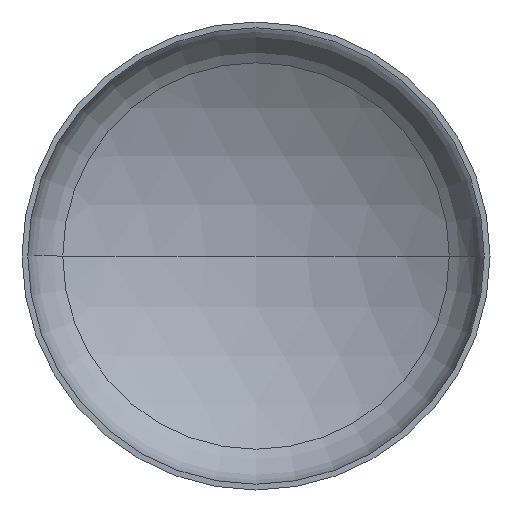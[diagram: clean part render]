
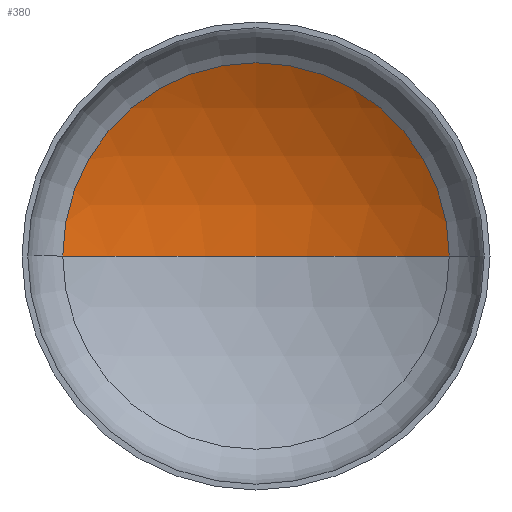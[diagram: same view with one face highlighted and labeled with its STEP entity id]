
A CAD part, front view. The second image highlights one B-rep face of the part: STEP entity #380.
In plain terms, the highlighted spherical face has radius 1760 mm.
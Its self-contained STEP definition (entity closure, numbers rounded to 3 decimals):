
#2 = AXIS2_PLACEMENT_3D ( 'NONE', #150, #242, #395 ) ;
#19 = EDGE_LOOP ( 'NONE', ( #40, #69, #143 ) ) ;
#26 = AXIS2_PLACEMENT_3D ( 'NONE', #209, #406, #348 ) ;
#28 = AXIS2_PLACEMENT_3D ( 'NONE', #173, #98, #296 ) ;
#37 = AXIS2_PLACEMENT_3D ( 'NONE', #409, #366, #231 ) ;
#40 = ORIENTED_EDGE ( 'NONE', *, *, #355, .F. ) ;
#69 = ORIENTED_EDGE ( 'NONE', *, *, #353, .T. ) ;
#76 = VERTEX_POINT ( 'NONE', #270 ) ;
#92 = VERTEX_POINT ( 'NONE', #235 ) ;
#98 = DIRECTION ( 'NONE',  ( 0., 0., -1. ) ) ;
#111 = VERTEX_POINT ( 'NONE', #227 ) ;
#143 = ORIENTED_EDGE ( 'NONE', *, *, #341, .T. ) ;
#150 = CARTESIAN_POINT ( 'NONE',  ( 0., -1131.187, 0. ) ) ;
#173 = CARTESIAN_POINT ( 'NONE',  ( 0., -1131.187, 0. ) ) ;
#194 = CIRCLE ( 'NONE', #37, 908.507 ) ;
#203 = FACE_OUTER_BOUND ( 'NONE', #19, .T. ) ;
#209 = CARTESIAN_POINT ( 'NONE',  ( 0., -1131.187, 0. ) ) ;
#227 = CARTESIAN_POINT ( 'NONE',  ( 0., 628.813, 0. ) ) ;
#231 = DIRECTION ( 'NONE',  ( 1., 0., 0. ) ) ;
#235 = CARTESIAN_POINT ( 'NONE',  ( 908.507, 376.2, 0. ) ) ;
#242 = DIRECTION ( 'NONE',  ( 0., 0., -1. ) ) ;
#247 = CIRCLE ( 'NONE', #26, 1760. ) ;
#261 = CIRCLE ( 'NONE', #28, 1760. ) ;
#270 = CARTESIAN_POINT ( 'NONE',  ( -908.507, 376.2, 0. ) ) ;
#296 = DIRECTION ( 'NONE',  ( -1., 0., 0. ) ) ;
#341 = EDGE_CURVE ( 'NONE', #92, #76, #194, .T. ) ;
#348 = DIRECTION ( 'NONE',  ( 1., 0., 0. ) ) ;
#353 = EDGE_CURVE ( 'NONE', #111, #92, #261, .T. ) ;
#355 = EDGE_CURVE ( 'NONE', #111, #76, #247, .T. ) ;
#366 = DIRECTION ( 'NONE',  ( 0., -1., 0. ) ) ;
#380 = ADVANCED_FACE ( 'NONE', ( #203 ), #407, .F. ) ;
#395 = DIRECTION ( 'NONE',  ( -1., 0., 0. ) ) ;
#406 = DIRECTION ( 'NONE',  ( 0., 0., 1. ) ) ;
#407 = SPHERICAL_SURFACE ( 'NONE', #2, 1760. ) ;
#409 = CARTESIAN_POINT ( 'NONE',  ( 0., 376.2, 0. ) ) ;
